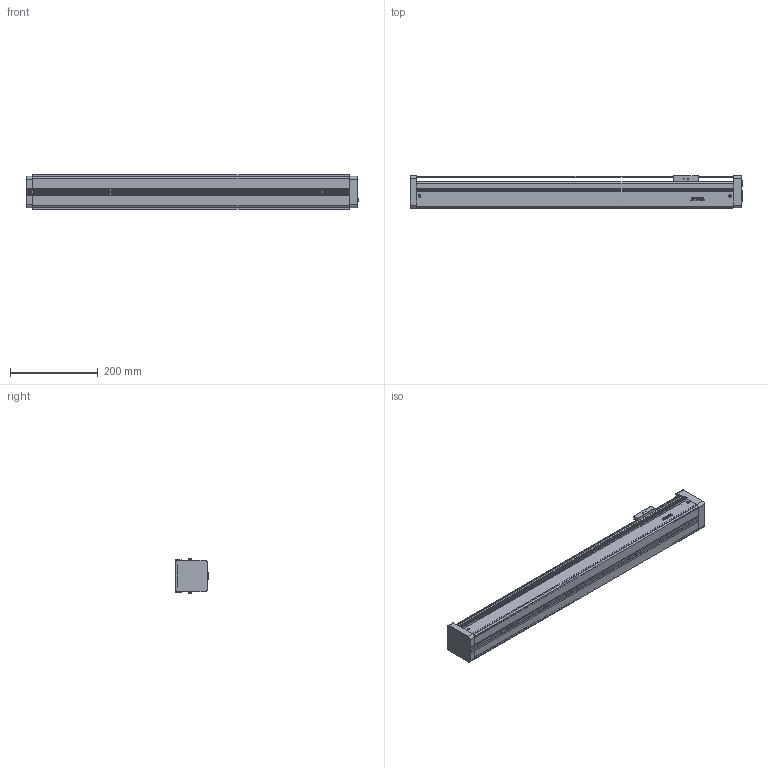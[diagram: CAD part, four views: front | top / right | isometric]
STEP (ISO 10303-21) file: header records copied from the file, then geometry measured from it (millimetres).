
FILE_DESCRIPTION(/* description */ (''),/* implementation_level */ '2;1');
FILE_NAME(/* name */ 'D:\混合母檔20191031\混和母檔\混和母檔\bin\Debug\Download\3D\KE705C-550AF0\KE705C-550AF0.stp',/* time_stamp */ '2019-11-04T14:05:01+08:00',/* author */ ('user'),/* organization */ (''),/* preprocessor_version */ 'ST-DEVELOPER v16.13',/* originating_system */ 'Autodesk Inventor 2018',/* authorisation */ '');
FILE_SCHEMA (('AUTOMOTIVE_DESIGN { 1 0 10303 214 3 1 1 }'));
Length unit declared in the file: millimetre
Products named in the file (3): KE705C-550AF0; KE70-F0-BP; KE70-SL
Assembly tree (2 placements, depth 2):
  KE705C-550AF0
    KE70-F0-BP
    KE70-SL
Bounding box: 757 x 75 x 79.4 mm (x, y, z)
Volume: 3114381.9 mm3; surface area: 454700.9 mm2
Topology: 2 solids, 29 shells, 842 faces, 2237 edges, 1460 vertices
Faces by surface type: plane 508, bspline 148, cylinder 109, cone 65, torus 12
Full cylindrical faces by diameter (mm): 2.459 x20, 3 x12, 3.242 x6, 3.5 x16, 4.134 x15, 5.7 x12, 6 x5, 30 x1
Entity records: 27937 total; most frequent: CARTESIAN_POINT 8804, ORIENTED_EDGE 3928, DIRECTION 3368, EDGE_CURVE 1964, VERTEX_POINT 1351, LINE 1280, VECTOR 1280, EDGE_LOOP 1053
